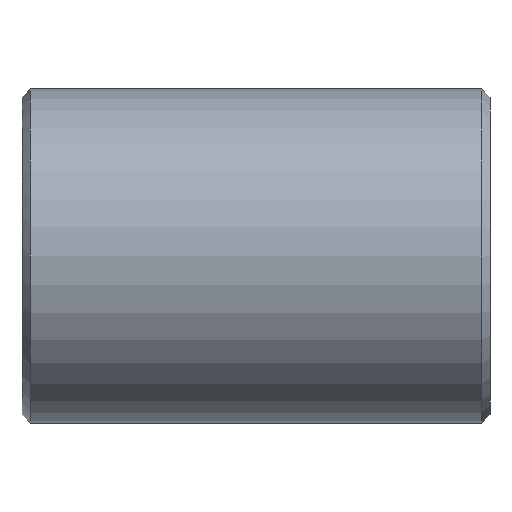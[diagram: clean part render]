
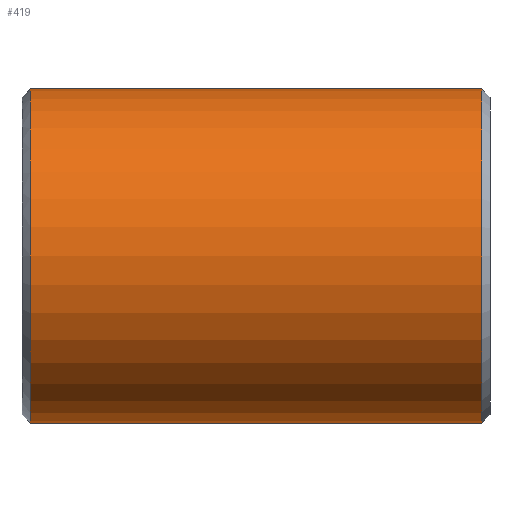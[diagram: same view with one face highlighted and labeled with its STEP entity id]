
A CAD part, front view. The second image highlights one B-rep face of the part: STEP entity #419.
In plain terms, the highlighted cylindrical face has radius 20 mm (diameter 40 mm), a partial arc.
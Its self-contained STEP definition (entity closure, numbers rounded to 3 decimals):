
#231=CARTESIAN_POINT('Vertex',(1.,0.,-20.)) ;
#238=CARTESIAN_POINT('Vertex',(1.,0.,20.)) ;
#267=CARTESIAN_POINT('Axis2P3D Location',(1.,0.,0.)) ;
#271=CARTESIAN_POINT('Vertex',(1.,-20.,0.)) ;
#274=CARTESIAN_POINT('Axis2P3D Location',(1.,0.,0.)) ;
#359=CARTESIAN_POINT('Line Origine',(56.,0.,20.)) ;
#363=CARTESIAN_POINT('Vertex',(55.,0.,20.)) ;
#377=CARTESIAN_POINT('Vertex',(55.,0.,-20.)) ;
#380=CARTESIAN_POINT('Line Origine',(56.,0.,-20.)) ;
#394=CARTESIAN_POINT('Axis2P3D Location',(56.,0.,0.)) ;
#399=CARTESIAN_POINT('Axis2P3D Location',(55.,0.,0.)) ;
#403=CARTESIAN_POINT('Vertex',(55.,-20.,0.)) ;
#406=CARTESIAN_POINT('Axis2P3D Location',(55.,0.,0.)) ;
#268=DIRECTION('Axis2P3D Direction',(1.,0.,-0.)) ;
#275=DIRECTION('Axis2P3D Direction',(1.,0.,-0.)) ;
#360=DIRECTION('Vector Direction',(-1.,0.,0.)) ;
#381=DIRECTION('Vector Direction',(-1.,0.,0.)) ;
#395=DIRECTION('Axis2P3D Direction',(-1.,-0.,-0.)) ;
#396=DIRECTION('Axis2P3D XDirection',(0.,0.,-1.)) ;
#400=DIRECTION('Axis2P3D Direction',(-1.,-0.,-0.)) ;
#407=DIRECTION('Axis2P3D Direction',(-1.,-0.,-0.)) ;
#269=AXIS2_PLACEMENT_3D('Circle Axis2P3D',#267,#268,$) ;
#276=AXIS2_PLACEMENT_3D('Circle Axis2P3D',#274,#275,$) ;
#397=AXIS2_PLACEMENT_3D('Cylinder Axis2P3D',#394,#395,#396) ;
#401=AXIS2_PLACEMENT_3D('Circle Axis2P3D',#399,#400,$) ;
#408=AXIS2_PLACEMENT_3D('Circle Axis2P3D',#406,#407,$) ;
#412=ORIENTED_EDGE('',*,*,#384,.T.) ;
#413=ORIENTED_EDGE('',*,*,#405,.F.) ;
#414=ORIENTED_EDGE('',*,*,#410,.F.) ;
#415=ORIENTED_EDGE('',*,*,#365,.T.) ;
#416=ORIENTED_EDGE('',*,*,#278,.T.) ;
#417=ORIENTED_EDGE('',*,*,#273,.T.) ;
#361=VECTOR('Line Direction',#360,1.) ;
#382=VECTOR('Line Direction',#381,1.) ;
#419=ADVANCED_FACE('352-32X56',(#418),#398,.T.) ;
#270=CIRCLE('generated circle',#269,20.) ;
#277=CIRCLE('generated circle',#276,20.) ;
#402=CIRCLE('generated circle',#401,20.) ;
#409=CIRCLE('generated circle',#408,20.) ;
#398=CYLINDRICAL_SURFACE('generated cylinder',#397,20.) ;
#273=EDGE_CURVE('',#272,#232,#270,.T.) ;
#278=EDGE_CURVE('',#239,#272,#277,.T.) ;
#365=EDGE_CURVE('',#364,#239,#362,.T.) ;
#384=EDGE_CURVE('',#232,#378,#383,.F.) ;
#405=EDGE_CURVE('',#404,#378,#402,.F.) ;
#410=EDGE_CURVE('',#364,#404,#409,.F.) ;
#411=EDGE_LOOP('',(#412,#413,#414,#415,#416,#417)) ;
#418=FACE_OUTER_BOUND('',#411,.T.) ;
#362=LINE('Line',#359,#361) ;
#383=LINE('Line',#380,#382) ;
#232=VERTEX_POINT('',#231) ;
#239=VERTEX_POINT('',#238) ;
#272=VERTEX_POINT('',#271) ;
#364=VERTEX_POINT('',#363) ;
#378=VERTEX_POINT('',#377) ;
#404=VERTEX_POINT('',#403) ;
